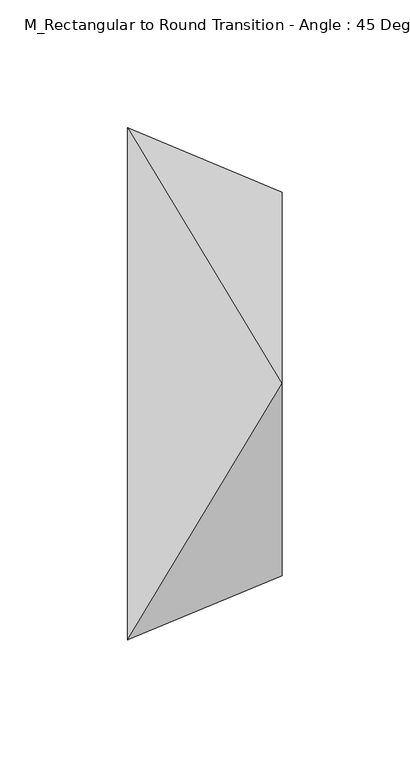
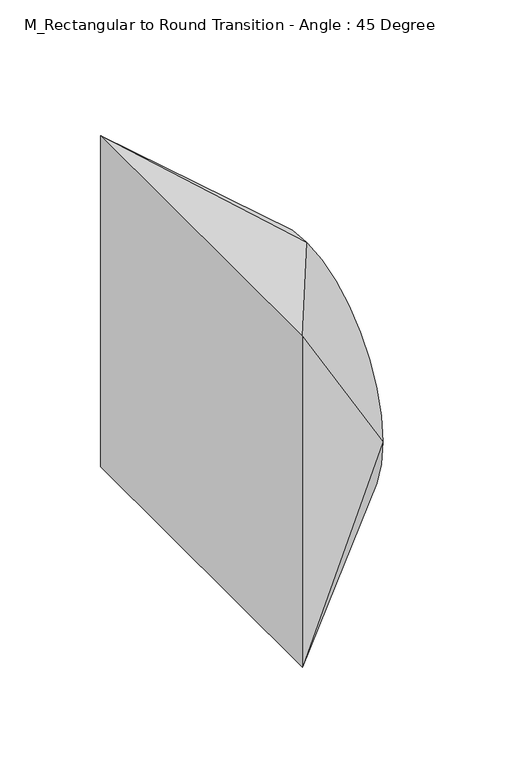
"""IFC4 building model written with IfcOpenShell, lengths in millimetres: duct fitting geometry, M_Rectangular to Round Transition - Angle : 45 Degree."""

from ifc_helpers import new_model, si_unit, frame, origin, place, context, project, spatial, circle_curve, source, transform, mapped, element, save
from ifc_brep_helpers import plane_surface, spline_surface, advanced_brep


def m_rectangular_to_round_transition_angle_45_degree_a3d48f28(model_context):
    return source(origin(), model_context, "Body", "AdvancedBrep", [
        advanced_brep(
        [(0.0, -100.0, -100.0), (0.0, -100.0, 100.0), (0.0, 100.0, 100.0), (0.0, 100.0, -100.0), (60.3553391, -75.0, 0.0), (60.3553391, 0.0, -75.0), (60.3553391, 75.0, 0.0), (60.3553391, 0.0, 75.0)],
        [
            (0, 1),
            (1, 2),
            (2, 3),
            (3, 0),
            (4, 5, circle_curve(frame((60.3553391, 0.0, 0.0), z_axis=(1.0, 0.0, 0.0), x_axis=(0.0, -1.0, 0.0)), 75.0)),
            (5, 6, circle_curve(frame((60.3553391, 0.0, 0.0), z_axis=(1.0, 0.0, 0.0), x_axis=(0.0, -1.0, 0.0)), 75.0)),
            (6, 7, circle_curve(frame((60.3553391, 0.0, 0.0), z_axis=(1.0, 0.0, 0.0), x_axis=(0.0, -1.0, 0.0)), 75.0)),
            (7, 4, circle_curve(frame((60.3553391, 0.0, 0.0), z_axis=(1.0, 0.0, 0.0), x_axis=(0.0, -1.0, 0.0)), 75.0)),
            (0, 4),
            (4, 1),
            (7, 1),
            (7, 2),
            (6, 2),
            (6, 3),
            (5, 3),
            (5, 0),
        ],
        [
            plane_surface(frame((0.0, 0.0, 0.0), z_axis=(-1.0, 0.0, 0.0), x_axis=(0.0, 1.0, 0.0))),
            plane_surface(frame((60.3553391, 0.0, 0.0), z_axis=(1.0, 0.0, 0.0), x_axis=(0.0, 1.0, 0.0))),
            plane_surface(frame((60.3553391, -75.0, 0.0), z_axis=(0.3826834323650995, -0.9238795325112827, 0.0), x_axis=(0.0, 0.0, 1.0))),
            spline_surface(2, 1, [[(60.3553391, -75.0, 0.0), (0.0, -100.0, 100.0)], [(60.3553391, -75.0, 75.0), (0.0, -100.0, 100.0)], [(60.3553391, 0.0, 75.0), (0.0, -100.0, 100.0)]], [3, 3], [2, 2], [0.0, 1.0], [0.0, 1.0], weights=[[1.0, 1.0], [0.7071067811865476, 0.7071067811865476], [1.0, 1.0]]),
            plane_surface(frame((60.3553391, 0.0, 75.0), z_axis=(0.3826834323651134, 0.0, 0.9238795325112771), x_axis=(0.0, 1.0, 0.0))),
            spline_surface(2, 1, [[(60.3553391, 0.0, 75.0), (0.0, 100.0, 100.0)], [(60.3553391, 75.0, 75.0), (0.0, 100.0, 100.0)], [(60.3553391, 75.0, 0.0), (0.0, 100.0, 100.0)]], [3, 3], [2, 2], [0.0, 1.0], [0.0, 1.0], weights=[[1.0, 1.0], [0.7071067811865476, 0.7071067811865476], [1.0, 1.0]]),
            plane_surface(frame((60.3553391, 75.0, 0.0), z_axis=(0.38268343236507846, 0.9238795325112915, 0.0), x_axis=(0.0, 0.0, -1.0))),
            spline_surface(2, 1, [[(60.3553391, 75.0, 0.0), (0.0, 100.0, -100.0)], [(60.3553391, 75.0, -75.0), (0.0, 100.0, -100.0)], [(60.3553391, 0.0, -75.0), (0.0, 100.0, -100.0)]], [3, 3], [2, 2], [0.0, 1.0], [0.0, 1.0], weights=[[1.0, 1.0], [0.7071067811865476, 0.7071067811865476], [1.0, 1.0]]),
            plane_surface(frame((60.3553391, 0.0, -75.0), z_axis=(0.38268343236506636, 0.0, -0.9238795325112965), x_axis=(0.0, -1.0, 0.0))),
            spline_surface(2, 1, [[(60.3553391, 0.0, -75.0), (0.0, -100.0, -100.0)], [(60.3553391, -75.0, -75.0), (0.0, -100.0, -100.0)], [(60.3553391, -75.0, 0.0), (0.0, -100.0, -100.0)]], [3, 3], [2, 2], [0.0, 1.0], [0.0, 1.0], weights=[[1.0, 1.0], [0.7071067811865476, 0.7071067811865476], [1.0, 1.0]]),
        ],
        [
            (0, [[1, 2, 3, 4]]),
            (1, [[5, 6, 7, 8]]),
            (2, [[-1, 9, 10]]),
            (3, [[-8, 11, -10]]),
            (4, [[-2, -11, 12]]),
            (5, [[-7, 13, -12]]),
            (6, [[-3, -13, 14]]),
            (7, [[-6, 15, -14]]),
            (8, [[-4, -15, 16]]),
            (9, [[-5, -9, -16]]),
        ],
    ),
        advanced_brep(
        [(0.0, -100.0, -100.0), (0.0, -100.0, 100.0), (0.0, 100.0, 100.0), (0.0, 100.0, -100.0), (60.3553391, -75.0, 0.0), (60.3553391, 0.0, -75.0), (60.3553391, 75.0, 0.0), (60.3553391, 0.0, 75.0)],
        [
            (0, 1),
            (1, 2),
            (2, 3),
            (3, 0),
            (4, 5, circle_curve(frame((60.3553391, 0.0, 0.0), z_axis=(1.0, 0.0, 0.0), x_axis=(0.0, -1.0, 0.0)), 75.0)),
            (5, 6, circle_curve(frame((60.3553391, 0.0, 0.0), z_axis=(1.0, 0.0, 0.0), x_axis=(0.0, -1.0, 0.0)), 75.0)),
            (6, 7, circle_curve(frame((60.3553391, 0.0, 0.0), z_axis=(1.0, 0.0, 0.0), x_axis=(0.0, -1.0, 0.0)), 75.0)),
            (7, 4, circle_curve(frame((60.3553391, 0.0, 0.0), z_axis=(1.0, 0.0, 0.0), x_axis=(0.0, -1.0, 0.0)), 75.0)),
            (0, 4),
            (4, 1),
            (7, 1),
            (7, 2),
            (6, 2),
            (6, 3),
            (5, 3),
            (5, 0),
        ],
        [
            plane_surface(frame((0.0, 0.0, 0.0), z_axis=(-1.0, 0.0, 0.0), x_axis=(0.0, 1.0, 0.0))),
            plane_surface(frame((60.3553391, 0.0, 0.0), z_axis=(1.0, 0.0, 0.0), x_axis=(0.0, 1.0, 0.0))),
            plane_surface(frame((60.3553391, -75.0, 0.0), z_axis=(0.3826834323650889, -0.9238795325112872, 0.0), x_axis=(0.0, 0.0, 1.0))),
            spline_surface(2, 1, [[(60.3553391, -75.0, 0.0), (0.0, -100.0, 100.0)], [(60.3553391, -75.0, 75.0), (0.0, -100.0, 100.0)], [(60.3553391, 0.0, 75.0), (0.0, -100.0, 100.0)]], [3, 3], [2, 2], [0.0, 1.0], [0.0, 1.0], weights=[[1.0, 1.0], [0.7071067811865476, 0.7071067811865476], [1.0, 1.0]]),
            plane_surface(frame((60.3553391, 0.0, 75.0), z_axis=(0.3826834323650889, 0.0, 0.9238795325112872), x_axis=(0.0, 1.0, 0.0))),
            spline_surface(2, 1, [[(60.3553391, 0.0, 75.0), (0.0, 100.0, 100.0)], [(60.3553391, 75.0, 75.0), (0.0, 100.0, 100.0)], [(60.3553391, 75.0, 0.0), (0.0, 100.0, 100.0)]], [3, 3], [2, 2], [0.0, 1.0], [0.0, 1.0], weights=[[1.0, 1.0], [0.7071067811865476, 0.7071067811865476], [1.0, 1.0]]),
            plane_surface(frame((60.3553391, 75.0, 0.0), z_axis=(0.38268343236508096, 0.9238795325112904, 0.0), x_axis=(0.0, 0.0, -1.0))),
            spline_surface(2, 1, [[(60.3553391, 75.0, 0.0), (0.0, 100.0, -100.0)], [(60.3553391, 75.0, -75.0), (0.0, 100.0, -100.0)], [(60.3553391, 0.0, -75.0), (0.0, 100.0, -100.0)]], [3, 3], [2, 2], [0.0, 1.0], [0.0, 1.0], weights=[[1.0, 1.0], [0.7071067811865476, 0.7071067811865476], [1.0, 1.0]]),
            plane_surface(frame((60.3553391, 0.0, -75.0), z_axis=(0.3826834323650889, 0.0, -0.9238795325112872), x_axis=(0.0, -1.0, 0.0))),
            spline_surface(2, 1, [[(60.3553391, 0.0, -75.0), (0.0, -100.0, -100.0)], [(60.3553391, -75.0, -75.0), (0.0, -100.0, -100.0)], [(60.3553391, -75.0, 0.0), (0.0, -100.0, -100.0)]], [3, 3], [2, 2], [0.0, 1.0], [0.0, 1.0], weights=[[1.0, 1.0], [0.7071067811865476, 0.7071067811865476], [1.0, 1.0]]),
        ],
        [
            (0, [[1, 2, 3, 4]]),
            (1, [[5, 6, 7, 8]]),
            (2, [[-1, 9, 10]]),
            (3, [[-8, 11, -10]]),
            (4, [[-2, -11, 12]]),
            (5, [[-7, 13, -12]]),
            (6, [[-3, -13, 14]]),
            (7, [[-6, 15, -14]]),
            (8, [[-4, -15, 16]]),
            (9, [[-5, -9, -16]]),
        ],
    ),
        advanced_brep(
        [(60.3553391, 0.0, 75.0), (60.3553391, -75.0, 0.0), (60.3553391, 0.0, -75.0), (60.3553391, 75.0, 0.0), (0.0, -100.0, 100.0), (0.0, 100.0, 100.0), (0.0, 100.0, -100.0), (0.0, -100.0, -100.0)],
        [
            (0, 1, circle_curve(frame((60.3553391, 0.0, 0.0), z_axis=(1.0, 0.0, 0.0), x_axis=(0.0, 1.0, 0.0)), 75.0)),
            (1, 2, circle_curve(frame((60.3553391, 0.0, 0.0), z_axis=(1.0, 0.0, 0.0), x_axis=(0.0, 1.0, 0.0)), 75.0)),
            (2, 3, circle_curve(frame((60.3553391, 0.0, 0.0), z_axis=(1.0, 0.0, 0.0), x_axis=(0.0, 1.0, 0.0)), 75.0)),
            (3, 0, circle_curve(frame((60.3553391, 0.0, 0.0), z_axis=(1.0, 0.0, 0.0), x_axis=(0.0, 1.0, 0.0)), 75.0)),
            (4, 5),
            (5, 6),
            (6, 7),
            (7, 4),
            (0, 4),
            (4, 1),
            (7, 1),
            (7, 2),
            (6, 2),
            (6, 3),
            (5, 3),
            (5, 0),
        ],
        [
            plane_surface(frame((60.3553391, 0.0, 0.0), z_axis=(1.0, 0.0, 0.0), x_axis=(0.0, 0.0, -1.0))),
            plane_surface(frame((0.0, 0.0, 0.0), z_axis=(-1.0, 0.0, 0.0), x_axis=(0.0, 0.0, -1.0))),
            spline_surface(2, 1, [[(0.0, -100.0, 100.0), (60.3553391, 0.0, 75.0)], [(0.0, -100.0, 100.0), (60.3553391, -75.0, 75.0)], [(0.0, -100.0, 100.0), (60.3553391, -75.0, 0.0)]], [3, 3], [2, 2], [0.0, 1.0], [0.0, 1.0], weights=[[1.0, 1.0], [0.7071067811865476, 0.7071067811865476], [1.0, 1.0]]),
            plane_surface(frame((0.0, -100.0, 0.0), z_axis=(0.3826834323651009, -0.9238795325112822, 0.0), x_axis=(0.0, 0.0, -1.0))),
            spline_surface(2, 1, [[(0.0, -100.0, -100.0), (60.3553391, -75.0, 0.0)], [(0.0, -100.0, -100.0), (60.3553391, -75.0, -75.0)], [(0.0, -100.0, -100.0), (60.3553391, 0.0, -75.0)]], [3, 3], [2, 2], [0.0, 1.0], [0.0, 1.0], weights=[[1.0, 1.0], [0.7071067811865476, 0.7071067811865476], [1.0, 1.0]]),
            plane_surface(frame((0.0, 0.0, -100.0), z_axis=(0.3826834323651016, 0.0, -0.9238795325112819), x_axis=(0.0, 1.0, 0.0))),
            spline_surface(2, 1, [[(0.0, 100.0, -100.0), (60.3553391, 0.0, -75.0)], [(0.0, 100.0, -100.0), (60.3553391, 75.0, -75.0)], [(0.0, 100.0, -100.0), (60.3553391, 75.0, 0.0)]], [3, 3], [2, 2], [0.0, 1.0], [0.0, 1.0], weights=[[1.0, 1.0], [0.7071067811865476, 0.7071067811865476], [1.0, 1.0]]),
            plane_surface(frame((0.0, 100.0, 0.0), z_axis=(0.38268343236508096, 0.9238795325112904, 0.0), x_axis=(0.0, 0.0, 1.0))),
            spline_surface(2, 1, [[(0.0, 100.0, 100.0), (60.3553391, 75.0, 0.0)], [(0.0, 100.0, 100.0), (60.3553391, 75.0, 75.0)], [(0.0, 100.0, 100.0), (60.3553391, 0.0, 75.0)]], [3, 3], [2, 2], [0.0, 1.0], [0.0, 1.0], weights=[[1.0, 1.0], [0.7071067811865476, 0.7071067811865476], [1.0, 1.0]]),
            plane_surface(frame((0.0, 0.0, 100.0), z_axis=(0.38268343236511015, 0.0, 0.9238795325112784), x_axis=(0.0, -1.0, 0.0))),
        ],
        [
            (0, [[1, 2, 3, 4]]),
            (1, [[5, 6, 7, 8]]),
            (2, [[-1, 9, 10]]),
            (3, [[-8, 11, -10]]),
            (4, [[-2, -11, 12]]),
            (5, [[-7, 13, -12]]),
            (6, [[-3, -13, 14]]),
            (7, [[-6, 15, -14]]),
            (8, [[-4, -15, 16]]),
            (9, [[-5, -9, -16]]),
        ],
    ),
    ])


if __name__ == "__main__":
    model = new_model("IFC4")
    model_context = context("Model", 3, world=origin())
    ifc_project = project(units=[si_unit("LENGTHUNIT", "METRE", prefix="MILLI")], contexts=[model_context])
    site = spatial("IfcSite", under=ifc_project)
    building = spatial("IfcBuilding", under=site)
    placement = place(None, origin())
    m_rectangular_to_round_transition_angle_45_degree_shape = m_rectangular_to_round_transition_angle_45_degree_a3d48f28(model_context)
    element("IfcDuctFitting", 1, ObjectType="M_Rectangular to Round Transition - Angle : 45 Degree", at=placement, inside=building, context=model_context, shape_type="MappedRepresentation", body=[
        mapped(m_rectangular_to_round_transition_angle_45_degree_shape, transform((0.0, 0.0, 0.0), x_axis=(1.0, 0.0, 0.0), y_axis=(0.0, 1.0, 0.0), z_axis=(0.0, 0.0, 1.0))),
    ])
    save(model, "model.ifc")
